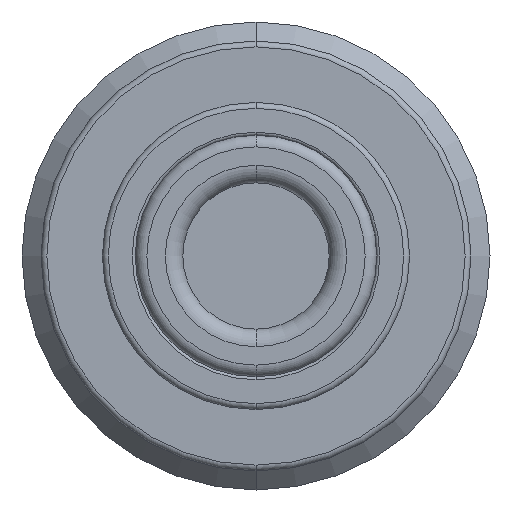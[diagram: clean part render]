
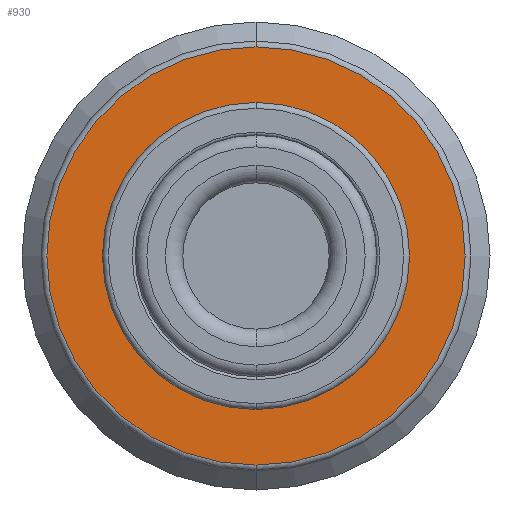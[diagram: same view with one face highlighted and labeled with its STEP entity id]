
A CAD part, front view. The second image highlights one B-rep face of the part: STEP entity #930.
In plain terms, the highlighted planar face has unit normal (0, -1, 0).
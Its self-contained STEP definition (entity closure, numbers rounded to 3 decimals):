
#689=PLANE('',#2912);
#724=FACE_BOUND('',#1223,.T.);
#725=FACE_BOUND('',#1224,.T.);
#930=ADVANCED_FACE('',(#724,#725),#689,.F.);
#1223=EDGE_LOOP('',(#1882,#1883));
#1224=EDGE_LOOP('',(#1884,#1885));
#1882=ORIENTED_EDGE('',*,*,#2470,.T.);
#1883=ORIENTED_EDGE('',*,*,#2346,.T.);
#1884=ORIENTED_EDGE('',*,*,#2395,.T.);
#1885=ORIENTED_EDGE('',*,*,#2469,.T.);
#2116=VERTEX_POINT('',#4190);
#2117=VERTEX_POINT('',#4191);
#2152=VERTEX_POINT('',#4288);
#2153=VERTEX_POINT('',#4290);
#2346=EDGE_CURVE('',#2116,#2117,#2585,.T.);
#2395=EDGE_CURVE('',#2153,#2152,#2613,.T.);
#2469=EDGE_CURVE('',#2152,#2153,#2644,.T.);
#2470=EDGE_CURVE('',#2117,#2116,#2645,.T.);
#2585=CIRCLE('',#2818,7.15);
#2613=CIRCLE('',#2860,5.25);
#2644=CIRCLE('',#2909,5.25);
#2645=CIRCLE('',#2911,7.15);
#2818=AXIS2_PLACEMENT_3D('',#4189,#3321,#3322);
#2860=AXIS2_PLACEMENT_3D('',#4289,#3426,#3427);
#2909=AXIS2_PLACEMENT_3D('',#4662,#3543,#3544);
#2911=AXIS2_PLACEMENT_3D('',#4664,#3547,#3548);
#2912=AXIS2_PLACEMENT_3D('',#4665,#3549,#3550);
#3321=DIRECTION('',(0.,-1.,0.));
#3322=DIRECTION('',(0.,0.,1.));
#3426=DIRECTION('',(0.,1.,0.));
#3427=DIRECTION('',(0.,0.,1.));
#3543=DIRECTION('',(0.,1.,0.));
#3544=DIRECTION('',(0.,0.,1.));
#3547=DIRECTION('',(0.,-1.,0.));
#3548=DIRECTION('',(0.,0.,1.));
#3549=DIRECTION('',(0.,1.,0.));
#3550=DIRECTION('',(0.,0.,-1.));
#4189=CARTESIAN_POINT('',(0.,0.,0.));
#4190=CARTESIAN_POINT('',(0.,0.,-7.15));
#4191=CARTESIAN_POINT('',(0.,0.,7.15));
#4288=CARTESIAN_POINT('',(0.,0.,-5.25));
#4289=CARTESIAN_POINT('',(0.,0.,0.));
#4290=CARTESIAN_POINT('',(0.,0.,5.25));
#4662=CARTESIAN_POINT('',(0.,0.,0.));
#4664=CARTESIAN_POINT('',(0.,0.,0.));
#4665=CARTESIAN_POINT('',(0.,0.,0.));
